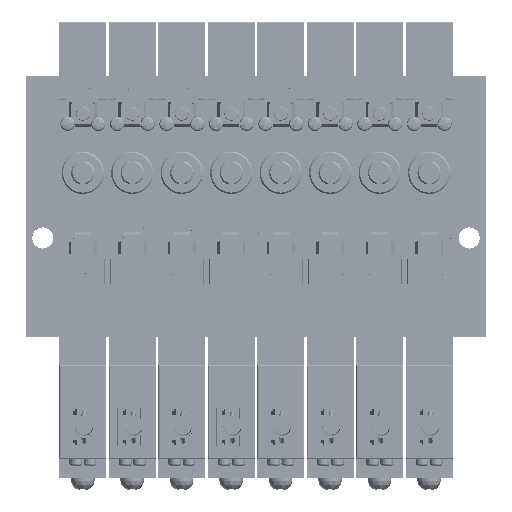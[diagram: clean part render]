
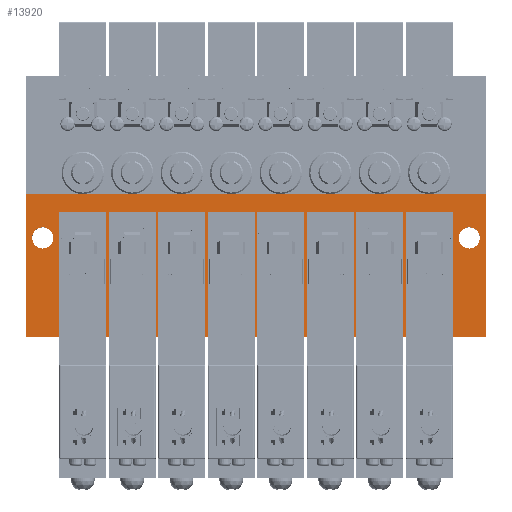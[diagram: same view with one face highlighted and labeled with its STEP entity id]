
A CAD part, top view. The second image highlights one B-rep face of the part: STEP entity #13920.
In plain terms, the highlighted planar face has unit normal (0, 0, 1).
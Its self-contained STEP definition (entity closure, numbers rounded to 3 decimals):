
#13920=ADVANCED_FACE('',(#24096,#24097,#24098),#24099,.F.);
#24096=FACE_BOUND('',#44832,.T.);
#24097=FACE_BOUND('',#44833,.T.);
#24098=FACE_OUTER_BOUND('',#44834,.T.);
#24099=PLANE('',#44835);
#44832=EDGE_LOOP('',(#68472));
#44833=EDGE_LOOP('',(#68473));
#44834=EDGE_LOOP('',(#68474,#68475,#68476,#68477));
#44835=AXIS2_PLACEMENT_3D('',#68478,#68479,#68480);
#68472=ORIENTED_EDGE('',*,*,#148429,.F.);
#68473=ORIENTED_EDGE('',*,*,#148430,.F.);
#68474=ORIENTED_EDGE('',*,*,#148426,.F.);
#68475=ORIENTED_EDGE('',*,*,#148441,.F.);
#68476=ORIENTED_EDGE('',*,*,#148393,.T.);
#68477=ORIENTED_EDGE('',*,*,#148440,.T.);
#68478=CARTESIAN_POINT('',(-97.5,30.3,14.8));
#68479=DIRECTION('',(0.0,0.0,-1.0));
#68480=DIRECTION('',(1.0,0.0,0.0));
#148393=EDGE_CURVE('',#174174,#174172,#174175,.T.);
#148426=EDGE_CURVE('',#174233,#174235,#174236,.T.);
#148429=EDGE_CURVE('',#174240,#174240,#174241,.T.);
#148430=EDGE_CURVE('',#174242,#174242,#174243,.T.);
#148440=EDGE_CURVE('',#174172,#174235,#174261,.T.);
#148441=EDGE_CURVE('',#174174,#174233,#174262,.T.);
#174172=VERTEX_POINT('',#217451);
#174174=VERTEX_POINT('',#217454);
#174175=LINE('',#217455,#217456);
#174233=VERTEX_POINT('',#217527);
#174235=VERTEX_POINT('',#217530);
#174236=LINE('',#217531,#217532);
#174240=VERTEX_POINT('',#217538);
#174241=CIRCLE('',#217539,2.25);
#174242=VERTEX_POINT('',#217540);
#174243=CIRCLE('',#217541,2.25);
#174261=LINE('',#217560,#217561);
#174262=LINE('',#217562,#217563);
#217451=CARTESIAN_POINT('',(-97.5,0.,14.8));
#217454=CARTESIAN_POINT('',(-97.5,30.3,14.8));
#217455=CARTESIAN_POINT('',(-97.5,30.3,14.8));
#217456=VECTOR('',#286196,1.0);
#217527=CARTESIAN_POINT('',(0.0,30.3,14.8));
#217530=CARTESIAN_POINT('',(0.0,0.,14.8));
#217531=CARTESIAN_POINT('',(0.0,30.3,14.8));
#217532=VECTOR('',#286265,1.0);
#217538=CARTESIAN_POINT('',(-1.25,21.0,14.8));
#217539=AXIS2_PLACEMENT_3D('',#286268,#286269,#286270);
#217540=CARTESIAN_POINT('',(-91.75,21.0,14.8));
#217541=AXIS2_PLACEMENT_3D('',#286271,#286272,#286273);
#217560=CARTESIAN_POINT('',(-97.5,0.,14.8));
#217561=VECTOR('',#286299,1.0);
#217562=CARTESIAN_POINT('',(-97.5,30.3,14.8));
#217563=VECTOR('',#286300,1.0);
#286196=DIRECTION('',(0.0,-1.0,0.0));
#286265=DIRECTION('',(0.0,-1.0,0.0));
#286268=CARTESIAN_POINT('',(-3.5,21.0,14.8));
#286269=DIRECTION('',(0.0,0.0,1.0));
#286270=DIRECTION('',(1.0,0.0,0.0));
#286271=CARTESIAN_POINT('',(-94.0,21.0,14.8));
#286272=DIRECTION('',(0.0,0.0,1.0));
#286273=DIRECTION('',(1.0,0.0,0.0));
#286299=DIRECTION('',(1.0,0.0,0.0));
#286300=DIRECTION('',(1.0,0.0,0.0));
